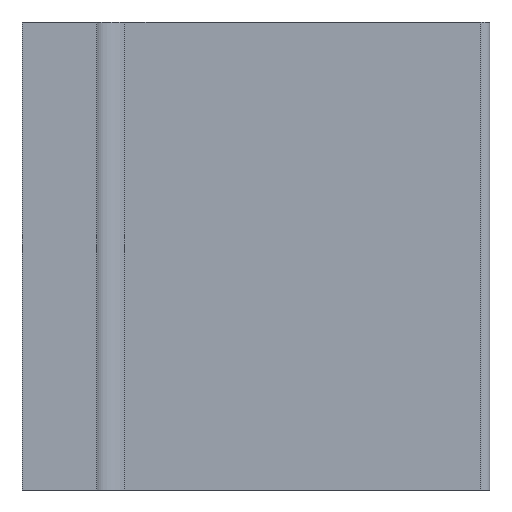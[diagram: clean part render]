
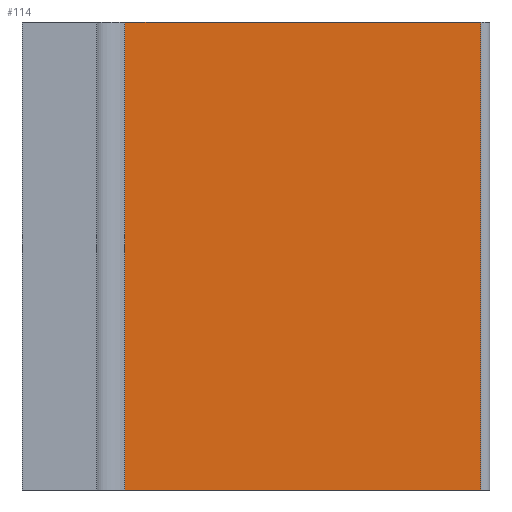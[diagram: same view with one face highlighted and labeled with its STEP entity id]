
A CAD part, front view. The second image highlights one B-rep face of the part: STEP entity #114.
In plain terms, the highlighted planar face has unit normal (0, -1, 0).
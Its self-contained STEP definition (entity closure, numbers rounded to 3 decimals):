
#6 = EDGE_CURVE ( 'NONE', #1162, #1869, #168, .T. ) ;
#36 = ORIENTED_EDGE ( 'NONE', *, *, #6, .T. ) ;
#91 = EDGE_LOOP ( 'NONE', ( #36, #1775, #2148, #2075 ) ) ;
#114 = ADVANCED_FACE ( 'NONE', ( #760 ), #761, .F. ) ;
#168 = LINE ( 'NONE', #169, #170 ) ;
#169 = CARTESIAN_POINT ( 'NONE',  ( 49., 12.5, 0. ) ) ;
#170 = VECTOR ( 'NONE', #171, 1000. ) ;
#171 = DIRECTION ( 'NONE',  ( 1., 0., 0. ) ) ;
#647 = CARTESIAN_POINT ( 'NONE',  ( 49., 12.5, 50. ) ) ;
#760 = FACE_OUTER_BOUND ( 'NONE', #91, .T. ) ;
#761 = PLANE ( 'NONE',  #762 ) ;
#762 = AXIS2_PLACEMENT_3D ( 'NONE', #763, #764, #765 ) ;
#763 = CARTESIAN_POINT ( 'NONE',  ( 49., 12.5, 50. ) ) ;
#764 = DIRECTION ( 'NONE',  ( 0., 1., 0. ) ) ;
#765 = DIRECTION ( 'NONE',  ( 0., 0., 1. ) ) ;
#784 = LINE ( 'NONE', #785, #786 ) ;
#785 = CARTESIAN_POINT ( 'NONE',  ( 49., 12.5, 50. ) ) ;
#786 = VECTOR ( 'NONE', #787, 1000. ) ;
#787 = DIRECTION ( 'NONE',  ( 0., 0., -1. ) ) ;
#1162 = VERTEX_POINT ( 'NONE', #1563 ) ;
#1232 = LINE ( 'NONE', #1233, #1234 ) ;
#1233 = CARTESIAN_POINT ( 'NONE',  ( 11., 12.5, 50. ) ) ;
#1234 = VECTOR ( 'NONE', #1235, 1000. ) ;
#1235 = DIRECTION ( 'NONE',  ( 0., 0., -1. ) ) ;
#1292 = CARTESIAN_POINT ( 'NONE',  ( 49., 12.5, 0. ) ) ;
#1365 = CARTESIAN_POINT ( 'NONE',  ( 11., 12.5, 50. ) ) ;
#1470 = LINE ( 'NONE', #1471, #1472 ) ;
#1471 = CARTESIAN_POINT ( 'NONE',  ( 49., 12.5, 50. ) ) ;
#1472 = VECTOR ( 'NONE', #1473, 1000. ) ;
#1473 = DIRECTION ( 'NONE',  ( 1., 0., 0. ) ) ;
#1563 = CARTESIAN_POINT ( 'NONE',  ( 11., 12.5, 0. ) ) ;
#1674 = VERTEX_POINT ( 'NONE', #647 ) ;
#1715 = EDGE_CURVE ( 'NONE', #1674, #1869, #784, .T. ) ;
#1775 = ORIENTED_EDGE ( 'NONE', *, *, #1715, .F. ) ;
#1869 = VERTEX_POINT ( 'NONE', #1292 ) ;
#1891 = VERTEX_POINT ( 'NONE', #1365 ) ;
#2075 = ORIENTED_EDGE ( 'NONE', *, *, #2084, .T. ) ;
#2084 = EDGE_CURVE ( 'NONE', #1891, #1162, #1232, .T. ) ;
#2118 = EDGE_CURVE ( 'NONE', #1891, #1674, #1470, .T. ) ;
#2148 = ORIENTED_EDGE ( 'NONE', *, *, #2118, .F. ) ;
